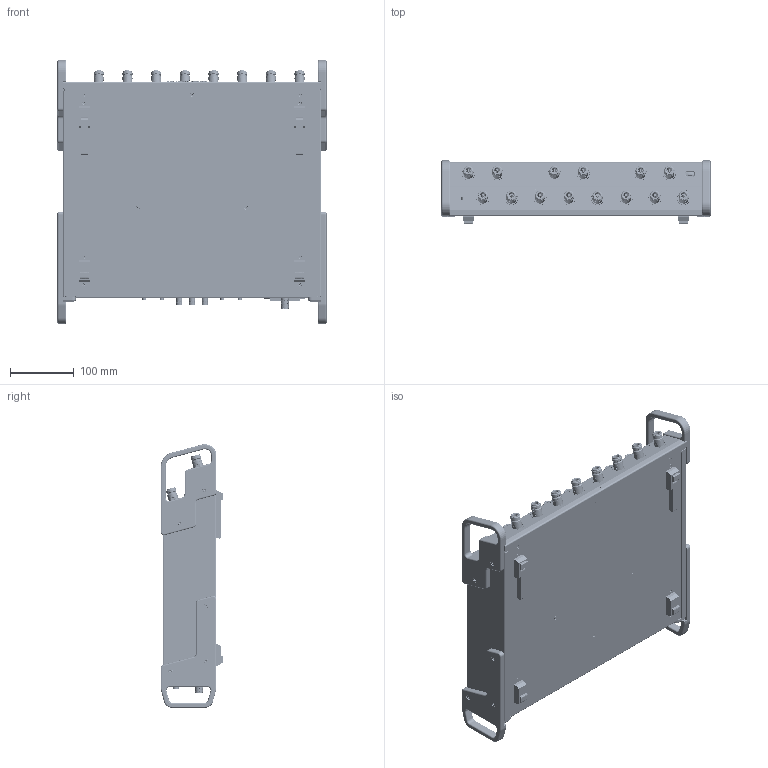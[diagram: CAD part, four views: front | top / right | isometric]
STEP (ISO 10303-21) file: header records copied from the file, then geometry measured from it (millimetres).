
FILE_DESCRIPTION (( 'STEP AP214' ), '1' );
FILE_NAME ('switch.STEP', '2025-06-26T15:02:49', ( '' ), ( '' ), 'SwSTEP 2.0', 'SolidWorks 2024', '' );
FILE_SCHEMA (( 'AUTOMOTIVE_DESIGN' ));
Length unit declared in the file: millimetre
Products named in the file (1): switch
Bounding box: 422 x 98.5 x 413.51 mm (x, y, z)
Volume: 1076427 mm3; surface area: 1106081.9 mm2
Topology: 405 solids, 409 shells, 16665 faces, 42423 edges, 27136 vertices
Faces by surface type: plane 8179, cylinder 4696, cone 1632, bspline 1360, torus 770, sphere 28
Entity records: 574918 total; most frequent: CARTESIAN_POINT 175970, ORIENTED_EDGE 84534, DIRECTION 78632, EDGE_CURVE 42267, AXIS2_PLACEMENT_3D 27679, VERTEX_POINT 27136, VECTOR 23274, LINE 23274
